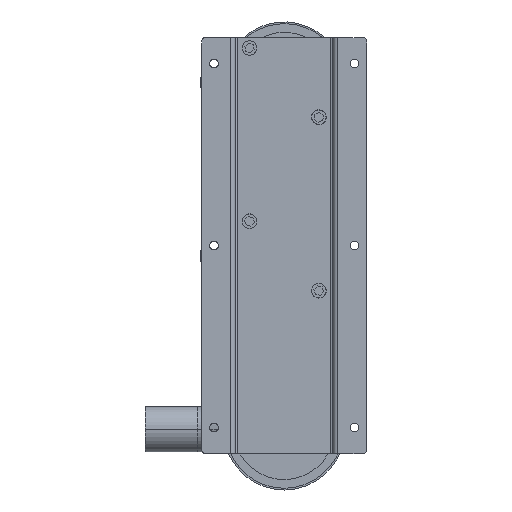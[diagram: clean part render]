
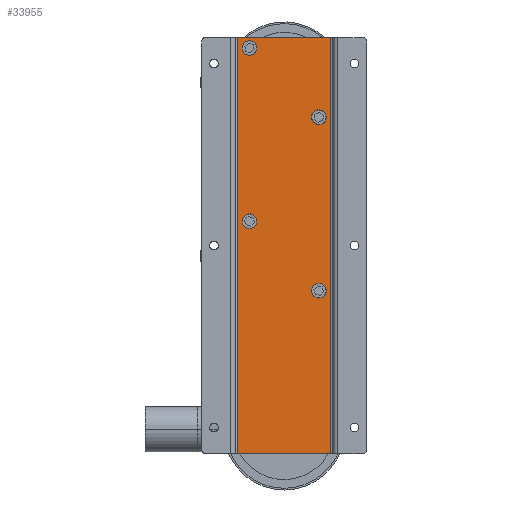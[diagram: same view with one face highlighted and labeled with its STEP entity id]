
A CAD part, left-side view. The second image highlights one B-rep face of the part: STEP entity #33955.
In plain terms, the highlighted planar face has unit normal (-1, 0, 0) as drawn and (0, 0, -1) by its records, which use the part's own axes.
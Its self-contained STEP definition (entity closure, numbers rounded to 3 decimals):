
#365 = DIRECTION ( 'NONE',  ( 0., 0., 1. ) ) ;
#417 = CARTESIAN_POINT ( 'NONE',  ( 120., 27., -2. ) ) ;
#423 = DIRECTION ( 'NONE',  ( 0., 0., 1. ) ) ;
#678 = CARTESIAN_POINT ( 'NONE',  ( -10.75, 20., -2. ) ) ;
#1767 = AXIS2_PLACEMENT_3D ( 'NONE', #29274, #14324, #36533 ) ;
#1880 = VERTEX_POINT ( 'NONE', #37127 ) ;
#2062 = DIRECTION ( 'NONE',  ( 0., 0., 1. ) ) ;
#2517 = CIRCLE ( 'NONE', #37704, 3.25 ) ;
#2846 = AXIS2_PLACEMENT_3D ( 'NONE', #8969, #36117, #3837 ) ;
#2850 = DIRECTION ( 'NONE',  ( 0., 0., 1. ) ) ;
#2912 = ORIENTED_EDGE ( 'NONE', *, *, #32497, .F. ) ;
#3595 = CARTESIAN_POINT ( 'NONE',  ( -120., -27., -2. ) ) ;
#3741 = CARTESIAN_POINT ( 'NONE',  ( 120., -27., -2. ) ) ;
#3837 = DIRECTION ( 'NONE',  ( 1., 0., 0. ) ) ;
#4164 = DIRECTION ( 'NONE',  ( 1., 0., 0. ) ) ;
#4306 = CIRCLE ( 'NONE', #14371, 3.25 ) ;
#4404 = CARTESIAN_POINT ( 'NONE',  ( -120., 27., -2. ) ) ;
#4751 = EDGE_CURVE ( 'NONE', #16951, #22740, #13395, .T. ) ;
#5216 = AXIS2_PLACEMENT_3D ( 'NONE', #17582, #5772, #12981 ) ;
#5772 = DIRECTION ( 'NONE',  ( 0., 0., 1. ) ) ;
#5824 = CARTESIAN_POINT ( 'NONE',  ( -110.75, 20., -2. ) ) ;
#6503 = CARTESIAN_POINT ( 'NONE',  ( -17.25, 20., -2. ) ) ;
#6705 = FACE_BOUND ( 'NONE', #8944, .T. ) ;
#7074 = CARTESIAN_POINT ( 'NONE',  ( 26., -20., -2. ) ) ;
#7130 = ORIENTED_EDGE ( 'NONE', *, *, #4751, .T. ) ;
#8004 = ORIENTED_EDGE ( 'NONE', *, *, #30874, .F. ) ;
#8059 = EDGE_CURVE ( 'NONE', #35311, #38274, #15616, .T. ) ;
#8611 = AXIS2_PLACEMENT_3D ( 'NONE', #27212, #36245, #33680 ) ;
#8944 = EDGE_LOOP ( 'NONE', ( #9311, #27734 ) ) ;
#8969 = CARTESIAN_POINT ( 'NONE',  ( -114., 20., -2. ) ) ;
#9311 = ORIENTED_EDGE ( 'NONE', *, *, #9795, .T. ) ;
#9358 = EDGE_CURVE ( 'NONE', #14824, #22594, #24261, .T. ) ;
#9395 = CARTESIAN_POINT ( 'NONE',  ( 26., -20., -2. ) ) ;
#9795 = EDGE_CURVE ( 'NONE', #1880, #12430, #15484, .T. ) ;
#11069 = ORIENTED_EDGE ( 'NONE', *, *, #17719, .T. ) ;
#11498 = DIRECTION ( 'NONE',  ( 1., 0., 0. ) ) ;
#11904 = DIRECTION ( 'NONE',  ( 1., 0., 0. ) ) ;
#12150 = ORIENTED_EDGE ( 'NONE', *, *, #9358, .T. ) ;
#12320 = CARTESIAN_POINT ( 'NONE',  ( -77.25, -20., -2. ) ) ;
#12430 = VERTEX_POINT ( 'NONE', #20499 ) ;
#12940 = DIRECTION ( 'NONE',  ( 1., 0., 0. ) ) ;
#12981 = DIRECTION ( 'NONE',  ( 1., 0., 0. ) ) ;
#13395 = CIRCLE ( 'NONE', #5216, 3.25 ) ;
#14324 = DIRECTION ( 'NONE',  ( 0., 0., 1. ) ) ;
#14371 = AXIS2_PLACEMENT_3D ( 'NONE', #20778, #2850, #11904 ) ;
#14824 = VERTEX_POINT ( 'NONE', #17993 ) ;
#15401 = FACE_BOUND ( 'NONE', #33832, .T. ) ;
#15484 = CIRCLE ( 'NONE', #28023, 3.25 ) ;
#15616 = LINE ( 'NONE', #3595, #25415 ) ;
#15625 = EDGE_LOOP ( 'NONE', ( #20437, #26412 ) ) ;
#15960 = DIRECTION ( 'NONE',  ( 1., 0., 0. ) ) ;
#16951 = VERTEX_POINT ( 'NONE', #17546 ) ;
#17546 = CARTESIAN_POINT ( 'NONE',  ( -70.75, -20., -2. ) ) ;
#17582 = CARTESIAN_POINT ( 'NONE',  ( -74., -20., -2. ) ) ;
#17719 = EDGE_CURVE ( 'NONE', #22594, #14824, #2517, .T. ) ;
#17738 = EDGE_LOOP ( 'NONE', ( #23877, #2912, #22203, #8004 ) ) ;
#17923 = CARTESIAN_POINT ( 'NONE',  ( -120., -27., -2. ) ) ;
#17993 = CARTESIAN_POINT ( 'NONE',  ( -117.25, 20., -2. ) ) ;
#18477 = VERTEX_POINT ( 'NONE', #6503 ) ;
#20437 = ORIENTED_EDGE ( 'NONE', *, *, #34737, .T. ) ;
#20499 = CARTESIAN_POINT ( 'NONE',  ( 22.75, -20., -2. ) ) ;
#20778 = CARTESIAN_POINT ( 'NONE',  ( -14., 20., -2. ) ) ;
#21099 = DIRECTION ( 'NONE',  ( -1., 0., 0. ) ) ;
#21293 = LINE ( 'NONE', #417, #28734 ) ;
#21317 = FACE_BOUND ( 'NONE', #30586, .T. ) ;
#21530 = DIRECTION ( 'NONE',  ( 0., 0., 1. ) ) ;
#21710 = FACE_OUTER_BOUND ( 'NONE', #17738, .T. ) ;
#21897 = CIRCLE ( 'NONE', #1767, 3.25 ) ;
#22203 = ORIENTED_EDGE ( 'NONE', *, *, #31062, .F. ) ;
#22247 = EDGE_CURVE ( 'NONE', #12430, #1880, #35466, .T. ) ;
#22594 = VERTEX_POINT ( 'NONE', #5824 ) ;
#22740 = VERTEX_POINT ( 'NONE', #12320 ) ;
#23087 = CARTESIAN_POINT ( 'NONE',  ( 120., -27., -2. ) ) ;
#23877 = ORIENTED_EDGE ( 'NONE', *, *, #8059, .F. ) ;
#24261 = CIRCLE ( 'NONE', #2846, 3.25 ) ;
#24288 = DIRECTION ( 'NONE',  ( 1., 0., 0. ) ) ;
#24663 = FACE_BOUND ( 'NONE', #15625, .T. ) ;
#25415 = VECTOR ( 'NONE', #36835, 1000. ) ;
#25632 = LINE ( 'NONE', #23087, #38695 ) ;
#26412 = ORIENTED_EDGE ( 'NONE', *, *, #35249, .T. ) ;
#27212 = CARTESIAN_POINT ( 'NONE',  ( 0., 0., -2. ) ) ;
#27399 = VECTOR ( 'NONE', #24288, 1000. ) ;
#27734 = ORIENTED_EDGE ( 'NONE', *, *, #22247, .T. ) ;
#27753 = AXIS2_PLACEMENT_3D ( 'NONE', #33690, #21530, #4164 ) ;
#28023 = AXIS2_PLACEMENT_3D ( 'NONE', #7074, #423, #15960 ) ;
#28734 = VECTOR ( 'NONE', #21099, 1000. ) ;
#29274 = CARTESIAN_POINT ( 'NONE',  ( -14., 20., -2. ) ) ;
#30361 = LINE ( 'NONE', #36055, #27399 ) ;
#30586 = EDGE_LOOP ( 'NONE', ( #7130, #35007 ) ) ;
#30874 = EDGE_CURVE ( 'NONE', #38274, #32557, #30361, .T. ) ;
#31062 = EDGE_CURVE ( 'NONE', #32557, #34533, #25632, .T. ) ;
#31254 = CARTESIAN_POINT ( 'NONE',  ( 120., 27., -2. ) ) ;
#31568 = CARTESIAN_POINT ( 'NONE',  ( -114., 20., -2. ) ) ;
#31894 = DIRECTION ( 'NONE',  ( 0., 1., 0. ) ) ;
#32141 = CIRCLE ( 'NONE', #27753, 3.25 ) ;
#32497 = EDGE_CURVE ( 'NONE', #34533, #35311, #21293, .T. ) ;
#32557 = VERTEX_POINT ( 'NONE', #3741 ) ;
#33570 = VERTEX_POINT ( 'NONE', #678 ) ;
#33680 = DIRECTION ( 'NONE',  ( 1., 0., 0. ) ) ;
#33690 = CARTESIAN_POINT ( 'NONE',  ( -74., -20., -2. ) ) ;
#33832 = EDGE_LOOP ( 'NONE', ( #11069, #12150 ) ) ;
#33955 = ADVANCED_FACE ( 'NONE', ( #15401, #21317, #24663, #6705, #21710 ), #36626, .F. ) ;
#34533 = VERTEX_POINT ( 'NONE', #31254 ) ;
#34737 = EDGE_CURVE ( 'NONE', #33570, #18477, #21897, .T. ) ;
#35007 = ORIENTED_EDGE ( 'NONE', *, *, #38011, .T. ) ;
#35249 = EDGE_CURVE ( 'NONE', #18477, #33570, #4306, .T. ) ;
#35311 = VERTEX_POINT ( 'NONE', #4404 ) ;
#35466 = CIRCLE ( 'NONE', #37999, 3.25 ) ;
#36055 = CARTESIAN_POINT ( 'NONE',  ( 120., -27., -2. ) ) ;
#36117 = DIRECTION ( 'NONE',  ( 0., 0., 1. ) ) ;
#36245 = DIRECTION ( 'NONE',  ( 0., 0., 1. ) ) ;
#36533 = DIRECTION ( 'NONE',  ( 1., 0., 0. ) ) ;
#36626 = PLANE ( 'NONE',  #8611 ) ;
#36835 = DIRECTION ( 'NONE',  ( 0., -1., 0. ) ) ;
#37127 = CARTESIAN_POINT ( 'NONE',  ( 29.25, -20., -2. ) ) ;
#37704 = AXIS2_PLACEMENT_3D ( 'NONE', #31568, #2062, #11498 ) ;
#37999 = AXIS2_PLACEMENT_3D ( 'NONE', #9395, #365, #12940 ) ;
#38011 = EDGE_CURVE ( 'NONE', #22740, #16951, #32141, .T. ) ;
#38274 = VERTEX_POINT ( 'NONE', #17923 ) ;
#38695 = VECTOR ( 'NONE', #31894, 1000. ) ;
